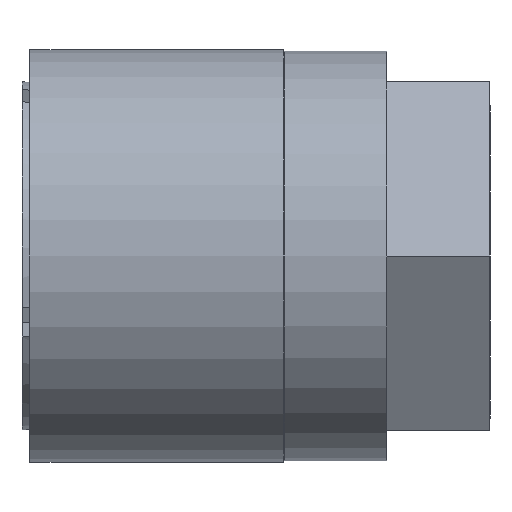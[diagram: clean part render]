
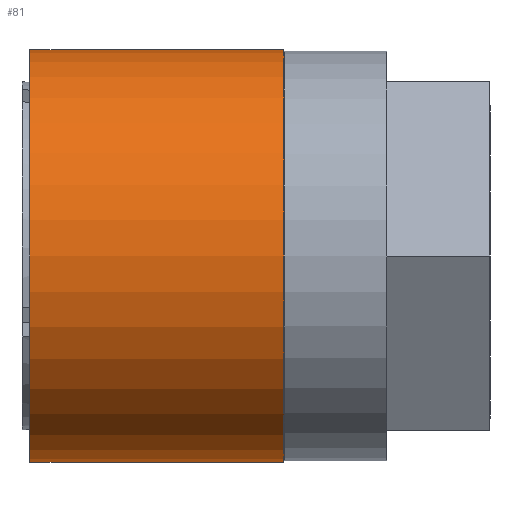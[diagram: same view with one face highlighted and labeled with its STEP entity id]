
A CAD part, front view. The second image highlights one B-rep face of the part: STEP entity #81.
In plain terms, the highlighted cylindrical face has radius 13 mm (diameter 26 mm), a partial arc.
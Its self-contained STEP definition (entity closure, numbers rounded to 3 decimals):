
#81 = ADVANCED_FACE ( 'NONE', ( #1710 ), #1714, .T. ) ;
#107 = CARTESIAN_POINT ( 'NONE',  ( 0.5, 0., -13. ) ) ;
#113 = CARTESIAN_POINT ( 'NONE',  ( 16.5, 0., -13. ) ) ;
#124 = CARTESIAN_POINT ( 'NONE',  ( 0.5, 0., 13. ) ) ;
#152 = CARTESIAN_POINT ( 'NONE',  ( 16.5, 0., 13. ) ) ;
#217 = CARTESIAN_POINT ( 'NONE',  ( 0., 0., 13. ) ) ;
#249 = CARTESIAN_POINT ( 'NONE',  ( 0.5, 0., 0. ) ) ;
#262 = DIRECTION ( 'NONE',  ( 0., 0., 1. ) ) ;
#270 = DIRECTION ( 'NONE',  ( -1., 0., 0. ) ) ;
#271 = DIRECTION ( 'NONE',  ( -1., 0., 0. ) ) ;
#304 = AXIS2_PLACEMENT_3D ( 'NONE', #249, #271, #262 ) ;
#328 = AXIS2_PLACEMENT_3D ( 'NONE', #852, #817, #816 ) ;
#362 = AXIS2_PLACEMENT_3D ( 'NONE', #912, #913, #915 ) ;
#404 = EDGE_CURVE ( 'NONE', #1116, #1090, #1755, .T. ) ;
#474 = EDGE_CURVE ( 'NONE', #1116, #1119, #1847, .T. ) ;
#595 = LINE ( 'NONE', #217, #616 ) ;
#616 = VECTOR ( 'NONE', #270, 1000. ) ;
#618 = CIRCLE ( 'NONE', #304, 13. ) ;
#659 = CARTESIAN_POINT ( 'NONE',  ( 0., 0., -13. ) ) ;
#683 = DIRECTION ( 'NONE',  ( -1., 0., 0. ) ) ;
#816 = DIRECTION ( 'NONE',  ( 0., 0., 1. ) ) ;
#817 = DIRECTION ( 'NONE',  ( -1., 0., 0. ) ) ;
#852 = CARTESIAN_POINT ( 'NONE',  ( 16.5, 0., 0. ) ) ;
#912 = CARTESIAN_POINT ( 'NONE',  ( 0., 0., 0. ) ) ;
#913 = DIRECTION ( 'NONE',  ( -1., 0., 0. ) ) ;
#915 = DIRECTION ( 'NONE',  ( 0., 0., 1. ) ) ;
#1090 = VERTEX_POINT ( 'NONE', #152 ) ;
#1109 = VERTEX_POINT ( 'NONE', #124 ) ;
#1116 = VERTEX_POINT ( 'NONE', #113 ) ;
#1119 = VERTEX_POINT ( 'NONE', #107 ) ;
#1189 = EDGE_CURVE ( 'NONE', #1090, #1109, #595, .T. ) ;
#1195 = EDGE_CURVE ( 'NONE', #1119, #1109, #618, .T. ) ;
#1280 = EDGE_LOOP ( 'NONE', ( #1530, #1531, #1532, #1533 ) ) ;
#1530 = ORIENTED_EDGE ( 'NONE', *, *, #474, .F. ) ;
#1531 = ORIENTED_EDGE ( 'NONE', *, *, #404, .T. ) ;
#1532 = ORIENTED_EDGE ( 'NONE', *, *, #1189, .T. ) ;
#1533 = ORIENTED_EDGE ( 'NONE', *, *, #1195, .F. ) ;
#1710 = FACE_OUTER_BOUND ( 'NONE', #1280, .T. ) ;
#1714 = CYLINDRICAL_SURFACE ( 'NONE', #362, 13. ) ;
#1755 = CIRCLE ( 'NONE', #328, 13. ) ;
#1847 = LINE ( 'NONE', #659, #1854 ) ;
#1854 = VECTOR ( 'NONE', #683, 1000. ) ;
